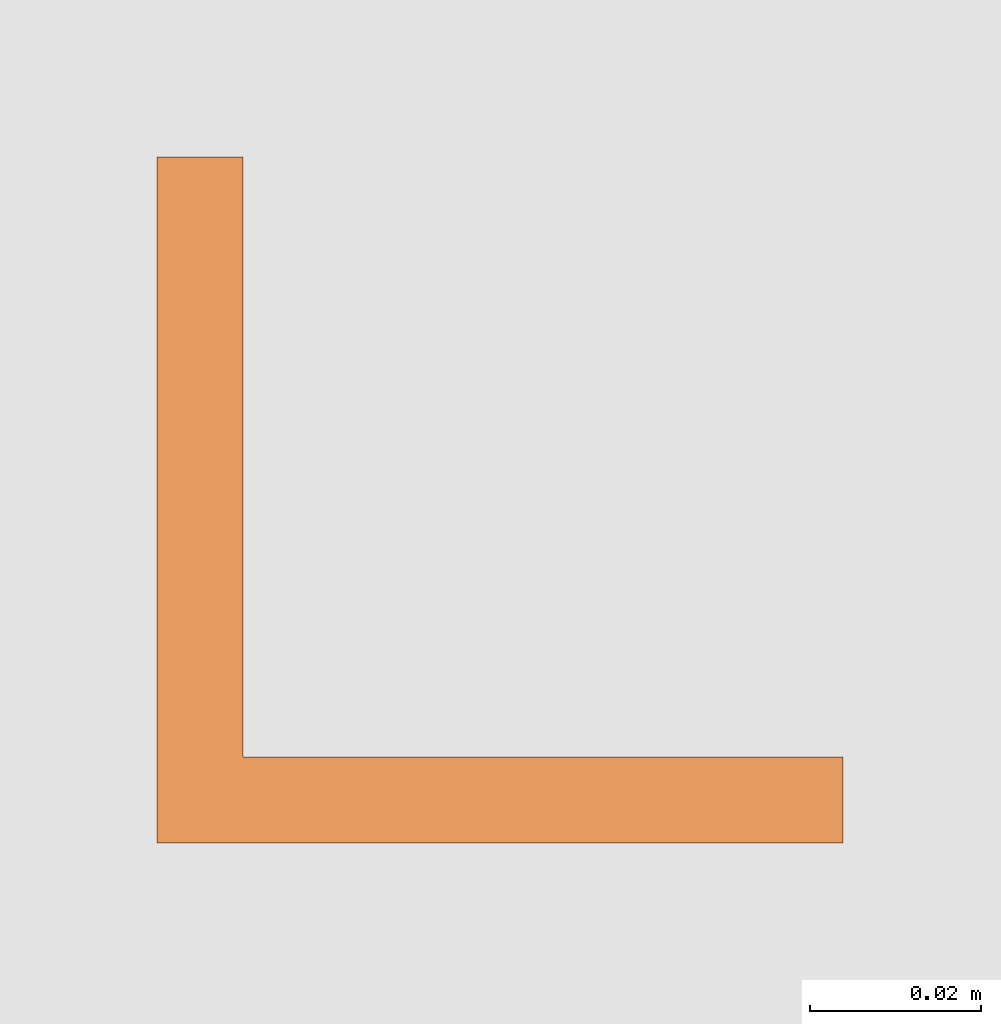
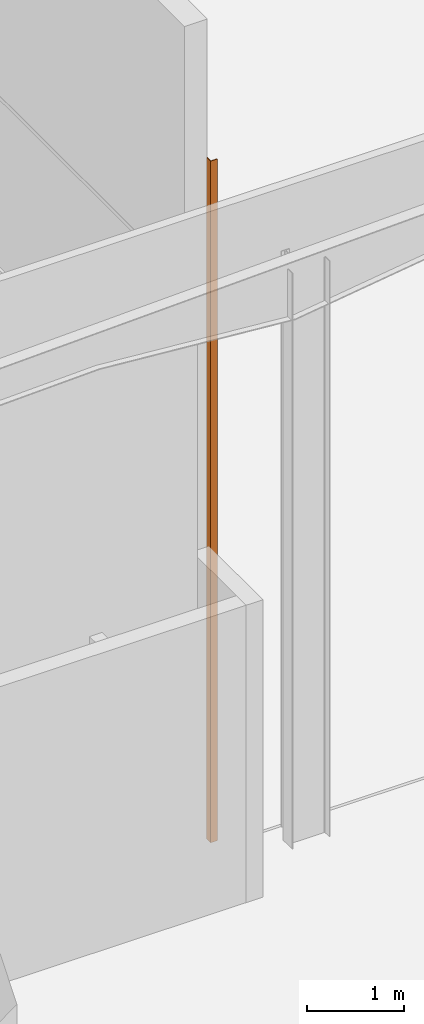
# One storey, part 132 of 137: 1 proxy.
"""IFC2X3 building model written with IfcOpenShell, lengths in centimetres."""

from ifc_helpers import new_model, entity, si_unit, converted_unit, derived_unit, direction, frame, origin, place, context, subcontext, project, spatial, polyline, outline, extrude, source, transform, mapped, material, type_object, type_shapes, element, save


model = new_model("IFC2X3")

# Units and contexts
model_context = context("Model", 3, precision=0.001, world=origin(), true_north=direction((6.12303176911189e-17, 1.0)))
body_context = subcontext(model_context, "Body", "Model", "MODEL_VIEW")
ifc_project = project(units=[si_unit("LENGTHUNIT", "METRE", prefix="CENTI"), si_unit("AREAUNIT", "SQUARE_METRE"), si_unit("VOLUMEUNIT", "CUBIC_METRE"), converted_unit("PLANEANGLEUNIT", "DEGREE", entity("IfcRatioMeasure", 0.0174532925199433), si_unit("PLANEANGLEUNIT", "RADIAN"), dimensions=[0, 0, 0, 0, 0, 0, 0]), si_unit("MASSUNIT", "GRAM", prefix="KILO"), si_unit("TIMEUNIT", "SECOND"), si_unit("FREQUENCYUNIT", "HERTZ"), si_unit("THERMODYNAMICTEMPERATUREUNIT", "DEGREE_CELSIUS"), derived_unit("THERMALTRANSMITTANCEUNIT", [(si_unit("MASSUNIT", "GRAM", prefix="KILO"), 1), (si_unit("THERMODYNAMICTEMPERATUREUNIT", "KELVIN"), -1), (si_unit("TIMEUNIT", "SECOND"), -3)]), derived_unit("VOLUMETRICFLOWRATEUNIT", [(si_unit("LENGTHUNIT", "METRE"), 3), (si_unit("TIMEUNIT", "SECOND"), -1)]), si_unit("ELECTRICCURRENTUNIT", "AMPERE"), si_unit("ELECTRICVOLTAGEUNIT", "VOLT"), si_unit("POWERUNIT", "WATT"), si_unit("FORCEUNIT", "NEWTON", prefix="KILO"), si_unit("ILLUMINANCEUNIT", "LUX"), si_unit("LUMINOUSFLUXUNIT", "LUMEN"), si_unit("LUMINOUSINTENSITYUNIT", "CANDELA"), derived_unit("USERDEFINED", [(si_unit("MASSUNIT", "GRAM", prefix="KILO"), -1), (si_unit("LENGTHUNIT", "METRE"), -2), (si_unit("TIMEUNIT", "SECOND"), 3), (si_unit("LUMINOUSFLUXUNIT", "LUMEN"), 1)]), derived_unit("LINEARVELOCITYUNIT", [(si_unit("LENGTHUNIT", "METRE"), 1), (si_unit("TIMEUNIT", "SECOND"), -1)]), si_unit("PRESSUREUNIT", "PASCAL"), derived_unit("USERDEFINED", [(si_unit("LENGTHUNIT", "METRE"), -2), (si_unit("MASSUNIT", "GRAM", prefix="KILO"), 1), (si_unit("TIMEUNIT", "SECOND"), -2)])], contexts=[model_context])

# Site, building, storey
site_placement = place(None, frame((8.62739174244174, -249.285249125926, 0.0)))
site = spatial("IfcSite", under=ifc_project, at=site_placement, Name="Default", CompositionType="ELEMENT")
building_placement = place(site_placement, origin())
building = spatial("IfcBuilding", under=site, at=building_placement, CompositionType="ELEMENT")
storey_placement = place(building_placement, origin())
storey = spatial("IfcBuildingStorey", under=building, at=storey_placement, Name="RDC", CompositionType="ELEMENT", Elevation=-8.82465566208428e-11)

# Proxy
ifc_material = material(Name="Montant métallique")
building_element_proxy_type = type_object("IfcBuildingElementProxyType", Name="profil-metallique-recouvrement-JD", PredefinedType="NOTDEFINED", material=ifc_material)
shared_shape = source(origin(), body_context, "Body", "SweptSolid", [
    extrude(outline(polyline([(-3.0, -5.0), (-2.0, -5.0), (-2.0, 2.0), (5.0, 2.0), (5.0, 3.0), (-3.0, 3.0), (-3.0, -5.0)])), frame((3.0, -3.0, 0.0)), (0.0, 0.0, 1.0), 855.0),
])
type_shapes(building_element_proxy_type, [shared_shape])
proxy_placement = place(storey_placement, frame((1478.90482779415, 3553.98060251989, 0.0), z_axis=(0.0, 0.0, 1.0), x_axis=(0.0, 1.0, 0.0)))
element("IfcBuildingElementProxy", 1, at=proxy_placement, inside=storey, type_object=building_element_proxy_type, material=ifc_material, Name="profil-metallique-recouvrement-JD:profil-metallique-recouvrement-JD", ObjectType="profil-metallique-recouvrement-JD", context=body_context, shape_type="MappedRepresentation", body=[
    mapped(shared_shape, transform((0.0, 0.0, 0.0), scale=1.0)),
])

save(model, "model.ifc")
